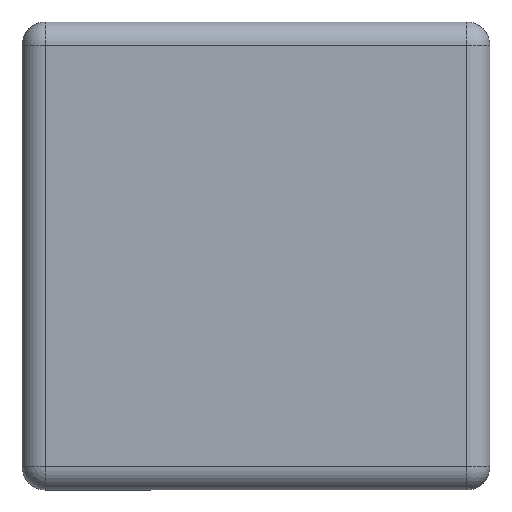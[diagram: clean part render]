
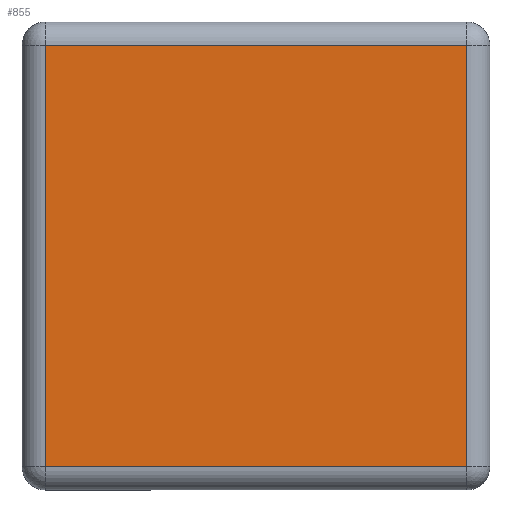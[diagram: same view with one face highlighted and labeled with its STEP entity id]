
A CAD part, front view. The second image highlights one B-rep face of the part: STEP entity #855.
In plain terms, the highlighted planar face has unit normal (0, -1, 0) as drawn and (0, 0, 1) by its records, which use the part's own axes.
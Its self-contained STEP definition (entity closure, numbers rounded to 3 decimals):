
#14 = CARTESIAN_POINT ( 'NONE',  ( -45., 45., 5. ) ) ;
#28 = DIRECTION ( 'NONE',  ( 1., 0., 0. ) ) ;
#64 = EDGE_CURVE ( 'NONE', #473, #258, #1374, .T. ) ;
#93 = CARTESIAN_POINT ( 'NONE',  ( -45., -50., 5. ) ) ;
#99 = ORIENTED_EDGE ( 'NONE', *, *, #853, .T. ) ;
#247 = CARTESIAN_POINT ( 'NONE',  ( -45., -45., 5. ) ) ;
#258 = VERTEX_POINT ( 'NONE', #431 ) ;
#378 = DIRECTION ( 'NONE',  ( 0., 0., 1. ) ) ;
#431 = CARTESIAN_POINT ( 'NONE',  ( 45., 45., 5. ) ) ;
#447 = EDGE_CURVE ( 'NONE', #1467, #913, #1604, .T. ) ;
#456 = CARTESIAN_POINT ( 'NONE',  ( 50., -45., 5. ) ) ;
#473 = VERTEX_POINT ( 'NONE', #1362 ) ;
#483 = DIRECTION ( 'NONE',  ( 0., -1., 0. ) ) ;
#487 = ORIENTED_EDGE ( 'NONE', *, *, #447, .T. ) ;
#513 = CARTESIAN_POINT ( 'NONE',  ( 0., 0., 5. ) ) ;
#517 = PLANE ( 'NONE',  #936 ) ;
#669 = CARTESIAN_POINT ( 'NONE',  ( -50., 45., 5. ) ) ;
#776 = CARTESIAN_POINT ( 'NONE',  ( 45., 50., 5. ) ) ;
#853 = EDGE_CURVE ( 'NONE', #258, #1467, #1398, .T. ) ;
#855 = ADVANCED_FACE ( 'NONE', ( #1096 ), #517, .T. ) ;
#906 = VECTOR ( 'NONE', #28, 1000. ) ;
#913 = VERTEX_POINT ( 'NONE', #247 ) ;
#936 = AXIS2_PLACEMENT_3D ( 'NONE', #513, #378, #1139 ) ;
#942 = EDGE_LOOP ( 'NONE', ( #99, #487, #1422, #1316 ) ) ;
#1059 = VECTOR ( 'NONE', #1394, 1000. ) ;
#1096 = FACE_OUTER_BOUND ( 'NONE', #942, .T. ) ;
#1139 = DIRECTION ( 'NONE',  ( 1., 0., 0. ) ) ;
#1231 = VECTOR ( 'NONE', #483, 1000. ) ;
#1238 = LINE ( 'NONE', #456, #906 ) ;
#1278 = EDGE_CURVE ( 'NONE', #913, #473, #1238, .T. ) ;
#1316 = ORIENTED_EDGE ( 'NONE', *, *, #64, .T. ) ;
#1333 = VECTOR ( 'NONE', #1555, 1000. ) ;
#1362 = CARTESIAN_POINT ( 'NONE',  ( 45., -45., 5. ) ) ;
#1374 = LINE ( 'NONE', #776, #1333 ) ;
#1394 = DIRECTION ( 'NONE',  ( -1., 0., 0. ) ) ;
#1398 = LINE ( 'NONE', #669, #1059 ) ;
#1422 = ORIENTED_EDGE ( 'NONE', *, *, #1278, .T. ) ;
#1467 = VERTEX_POINT ( 'NONE', #14 ) ;
#1555 = DIRECTION ( 'NONE',  ( 0., 1., 0. ) ) ;
#1604 = LINE ( 'NONE', #93, #1231 ) ;
